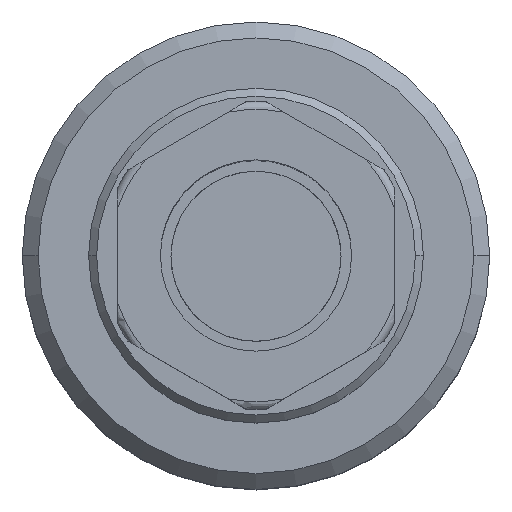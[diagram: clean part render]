
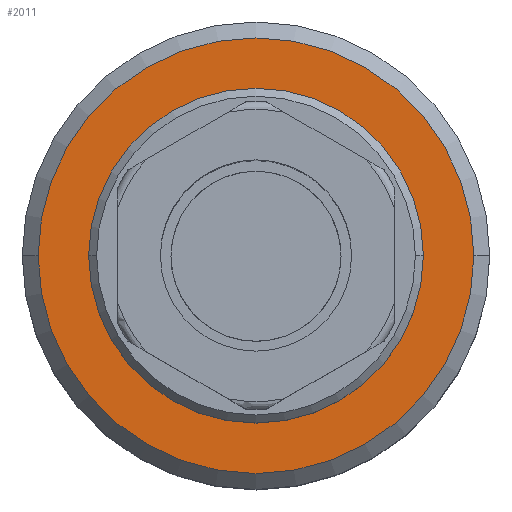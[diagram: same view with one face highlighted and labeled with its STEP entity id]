
A CAD part, top view. The second image highlights one B-rep face of the part: STEP entity #2011.
In plain terms, the highlighted planar face has unit normal (0, 0, 1).
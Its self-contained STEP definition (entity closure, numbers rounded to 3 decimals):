
#1904=CARTESIAN_POINT('Vertex',(-31.5,0.,-8.)) ;
#1907=CARTESIAN_POINT('Axis2P3D Location',(0.,0.,-8.)) ;
#1911=CARTESIAN_POINT('Vertex',(31.5,0.,-8.)) ;
#1933=CARTESIAN_POINT('Axis2P3D Location',(0.,0.,-8.)) ;
#1984=CARTESIAN_POINT('Axis2P3D Location',(0.,0.,-8.)) ;
#1989=CARTESIAN_POINT('Axis2P3D Location',(0.,0.,-8.)) ;
#1993=CARTESIAN_POINT('Vertex',(-41.,0.,-8.)) ;
#1995=CARTESIAN_POINT('Vertex',(41.,0.,-8.)) ;
#1998=CARTESIAN_POINT('Axis2P3D Location',(0.,0.,-8.)) ;
#1908=DIRECTION('Axis2P3D Direction',(0.,0.,-1.)) ;
#1934=DIRECTION('Axis2P3D Direction',(0.,0.,-1.)) ;
#1985=DIRECTION('Axis2P3D Direction',(0.,0.,-1.)) ;
#1986=DIRECTION('Axis2P3D XDirection',(1.,0.,0.)) ;
#1990=DIRECTION('Axis2P3D Direction',(0.,0.,-1.)) ;
#1999=DIRECTION('Axis2P3D Direction',(0.,0.,-1.)) ;
#1909=AXIS2_PLACEMENT_3D('Circle Axis2P3D',#1907,#1908,$) ;
#1935=AXIS2_PLACEMENT_3D('Circle Axis2P3D',#1933,#1934,$) ;
#1987=AXIS2_PLACEMENT_3D('Plane Axis2P3D',#1984,#1985,#1986) ;
#1991=AXIS2_PLACEMENT_3D('Circle Axis2P3D',#1989,#1990,$) ;
#2000=AXIS2_PLACEMENT_3D('Circle Axis2P3D',#1998,#1999,$) ;
#2004=ORIENTED_EDGE('',*,*,#1997,.F.) ;
#2005=ORIENTED_EDGE('',*,*,#2002,.F.) ;
#2008=ORIENTED_EDGE('',*,*,#1937,.T.) ;
#2009=ORIENTED_EDGE('',*,*,#1913,.T.) ;
#2010=FACE_BOUND('',#2007,.T.) ;
#2011=ADVANCED_FACE('PartBody',(#2006,#2010),#1988,.F.) ;
#1910=CIRCLE('generated circle',#1909,31.5) ;
#1936=CIRCLE('generated circle',#1935,31.5) ;
#1992=CIRCLE('generated circle',#1991,41.) ;
#2001=CIRCLE('generated circle',#2000,41.) ;
#1913=EDGE_CURVE('',#1912,#1905,#1910,.T.) ;
#1937=EDGE_CURVE('',#1905,#1912,#1936,.T.) ;
#1997=EDGE_CURVE('',#1994,#1996,#1992,.T.) ;
#2002=EDGE_CURVE('',#1996,#1994,#2001,.T.) ;
#2003=EDGE_LOOP('',(#2004,#2005)) ;
#2007=EDGE_LOOP('',(#2008,#2009)) ;
#2006=FACE_OUTER_BOUND('',#2003,.T.) ;
#1988=PLANE('',#1987) ;
#1905=VERTEX_POINT('',#1904) ;
#1912=VERTEX_POINT('',#1911) ;
#1994=VERTEX_POINT('',#1993) ;
#1996=VERTEX_POINT('',#1995) ;
